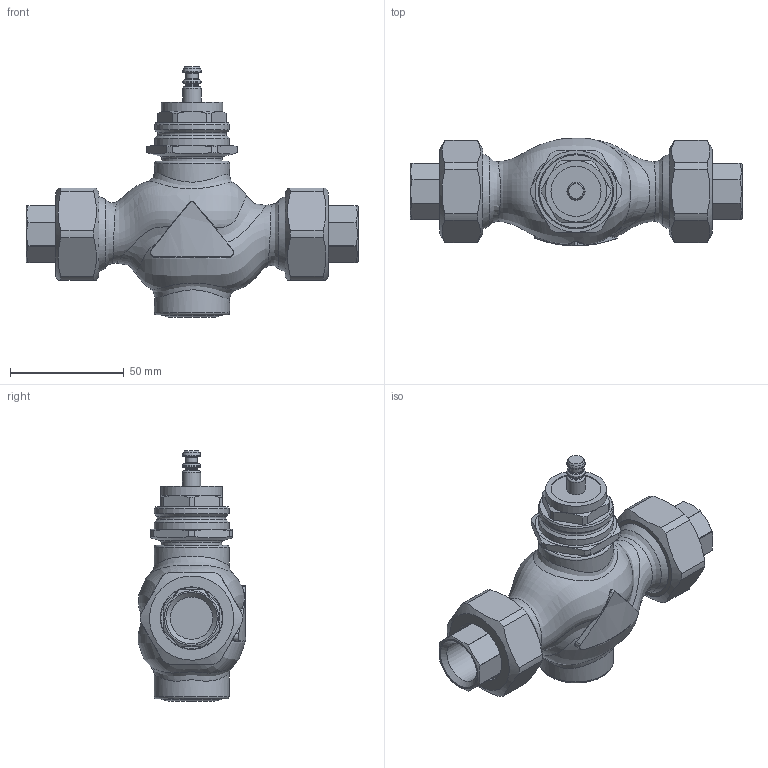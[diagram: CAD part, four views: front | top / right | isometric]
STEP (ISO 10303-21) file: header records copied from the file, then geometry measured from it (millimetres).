
FILE_DESCRIPTION(/* description */ (''),/* implementation_level */ '2;1');
FILE_NAME(/* name */ 'rv111s_dn15_2_T.stp',/* time_stamp */ '2012-02-28T10:54:58+01:00',/* author */ ('KLIMES'),/* organization */ ('LDM'),/* preprocessor_version */ 'ST-DEVELOPER v11',/* originating_system */ 'SIEMENS PLM Software NX 7.0',/* authorisation */ '');
FILE_SCHEMA (('CONFIG_CONTROL_DESIGN'));
Length unit declared in the file: millimetre
Products named in the file (1): klimEAFB3d67
Bounding box: 146 x 47.4 x 110.05 mm (x, y, z)
Volume: 200105.2 mm3; surface area: 41962.5 mm2
Topology: 7 solids, 7 shells, 215 faces, 512 edges, 329 vertices
Faces by surface type: plane 92, cylinder 59, cone 30, bspline 22, torus 12
Full cylindrical faces by diameter (mm): 5.3 x1, 5.5 x1, 8 x3, 18.631 x2, 21 x2, 21.5 x2, 22 x1, 26.5 x2, 27 x3, 27.5 x2, 30 x4, 30.291 x2, 33 x4, 33.249 x2
Entity records: 11454 total; most frequent: CARTESIAN_POINT 7001, DIRECTION 882, ORIENTED_EDGE 818, EDGE_CURVE 409, AXIS2_PLACEMENT_3D 387, EDGE_LOOP 315, VERTEX_POINT 296, ADVANCED_FACE 215
